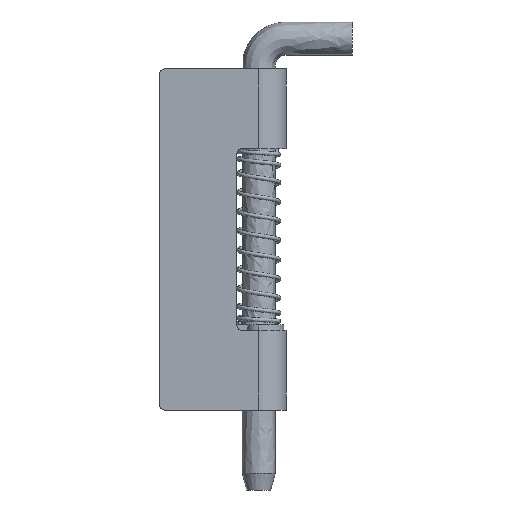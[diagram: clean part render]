
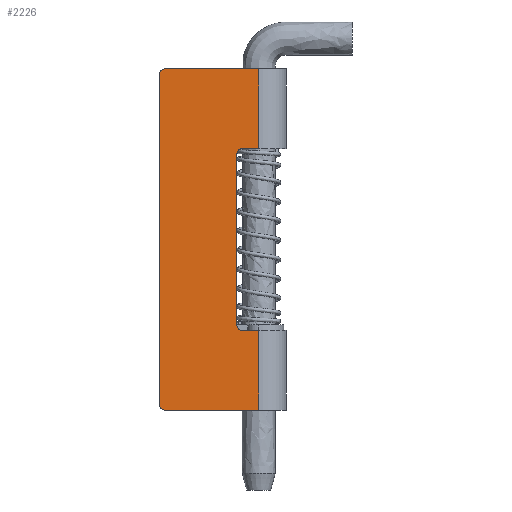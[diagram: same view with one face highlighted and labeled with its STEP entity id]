
A CAD part, front view. The second image highlights one B-rep face of the part: STEP entity #2226.
In plain terms, the highlighted planar face has unit normal (0, -1, 0).
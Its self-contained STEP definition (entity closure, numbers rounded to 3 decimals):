
#47 = LINE ( 'NONE', #246, #1322 ) ;
#143 = CARTESIAN_POINT ( 'NONE',  ( 1., -2., 31. ) ) ;
#199 = CARTESIAN_POINT ( 'NONE',  ( 0., -2., 16.5 ) ) ;
#212 = DIRECTION ( 'NONE',  ( 1., 0., 0. ) ) ;
#228 = DIRECTION ( 'NONE',  ( 0., 0., -1. ) ) ;
#246 = CARTESIAN_POINT ( 'NONE',  ( 0., -2., 31. ) ) ;
#287 = EDGE_CURVE ( 'NONE', #3141, #1307, #5175, .T. ) ;
#319 = EDGE_CURVE ( 'NONE', #5837, #3704, #4651, .T. ) ;
#354 = CARTESIAN_POINT ( 'NONE',  ( 0., -2., 30. ) ) ;
#441 = CIRCLE ( 'NONE', #1490, 1. ) ;
#456 = AXIS2_PLACEMENT_3D ( 'NONE', #1447, #1453, #1474 ) ;
#514 = EDGE_CURVE ( 'NONE', #6258, #3141, #5994, .T. ) ;
#587 = VECTOR ( 'NONE', #212, 1000. ) ;
#639 = AXIS2_PLACEMENT_3D ( 'NONE', #4137, #981, #4665 ) ;
#641 = DIRECTION ( 'NONE',  ( 0., 0., 1. ) ) ;
#758 = EDGE_CURVE ( 'NONE', #1394, #4854, #1375, .T. ) ;
#770 = CARTESIAN_POINT ( 'NONE',  ( 0., -2., -30. ) ) ;
#816 = ORIENTED_EDGE ( 'NONE', *, *, #1199, .T. ) ;
#842 = EDGE_CURVE ( 'NONE', #1075, #5837, #47, .T. ) ;
#981 = DIRECTION ( 'NONE',  ( 0., -1., 0. ) ) ;
#983 = ORIENTED_EDGE ( 'NONE', *, *, #758, .T. ) ;
#1075 = VERTEX_POINT ( 'NONE', #354 ) ;
#1095 = CARTESIAN_POINT ( 'NONE',  ( 18., -2., 31. ) ) ;
#1127 = DIRECTION ( 'NONE',  ( 0., 0., -1. ) ) ;
#1133 = DIRECTION ( 'NONE',  ( 0., 1., 0. ) ) ;
#1145 = ORIENTED_EDGE ( 'NONE', *, *, #6511, .T. ) ;
#1199 = EDGE_CURVE ( 'NONE', #6258, #4115, #2609, .T. ) ;
#1267 = ORIENTED_EDGE ( 'NONE', *, *, #1808, .F. ) ;
#1307 = VERTEX_POINT ( 'NONE', #1483 ) ;
#1322 = VECTOR ( 'NONE', #228, 1000. ) ;
#1375 = LINE ( 'NONE', #199, #587 ) ;
#1394 = VERTEX_POINT ( 'NONE', #1661 ) ;
#1439 = EDGE_CURVE ( 'NONE', #3711, #1394, #441, .T. ) ;
#1447 = CARTESIAN_POINT ( 'NONE',  ( 15., -2., -15.5 ) ) ;
#1453 = DIRECTION ( 'NONE',  ( 0., 1., 0. ) ) ;
#1471 = ORIENTED_EDGE ( 'NONE', *, *, #6464, .F. ) ;
#1474 = DIRECTION ( 'NONE',  ( 0., 0., 1. ) ) ;
#1483 = CARTESIAN_POINT ( 'NONE',  ( 18., -2., -31. ) ) ;
#1490 = AXIS2_PLACEMENT_3D ( 'NONE', #2422, #2335, #2302 ) ;
#1533 = DIRECTION ( 'NONE',  ( 0., -1., 0. ) ) ;
#1551 = CARTESIAN_POINT ( 'NONE',  ( 18., -2., 31. ) ) ;
#1636 = CARTESIAN_POINT ( 'NONE',  ( 1., -2., -30. ) ) ;
#1649 = PLANE ( 'NONE',  #5378 ) ;
#1661 = CARTESIAN_POINT ( 'NONE',  ( 15., -2., 16.5 ) ) ;
#1808 = EDGE_CURVE ( 'NONE', #3534, #4854, #3330, .T. ) ;
#1851 = CARTESIAN_POINT ( 'NONE',  ( 18., -2., -16.5 ) ) ;
#1922 = CIRCLE ( 'NONE', #639, 1. ) ;
#2047 = CARTESIAN_POINT ( 'NONE',  ( 1., -2., -31. ) ) ;
#2226 = ADVANCED_FACE ( 'NONE', ( #4161 ), #1649, .F. ) ;
#2260 = VECTOR ( 'NONE', #4593, 1000. ) ;
#2302 = DIRECTION ( 'NONE',  ( 0., 0., 1. ) ) ;
#2335 = DIRECTION ( 'NONE',  ( 0., 1., 0. ) ) ;
#2422 = CARTESIAN_POINT ( 'NONE',  ( 15., -2., 15.5 ) ) ;
#2476 = VECTOR ( 'NONE', #4076, 1000. ) ;
#2589 = CARTESIAN_POINT ( 'NONE',  ( 14., -2., 15.5 ) ) ;
#2609 = CIRCLE ( 'NONE', #456, 1. ) ;
#2728 = CARTESIAN_POINT ( 'NONE',  ( 15., -2., -16.5 ) ) ;
#2911 = AXIS2_PLACEMENT_3D ( 'NONE', #1636, #1533, #641 ) ;
#3110 = CARTESIAN_POINT ( 'NONE',  ( 14., -2., -15.5 ) ) ;
#3141 = VERTEX_POINT ( 'NONE', #1851 ) ;
#3224 = CARTESIAN_POINT ( 'NONE',  ( 0., -2., 31. ) ) ;
#3283 = LINE ( 'NONE', #3224, #2476 ) ;
#3328 = ORIENTED_EDGE ( 'NONE', *, *, #3745, .T. ) ;
#3330 = LINE ( 'NONE', #1551, #5956 ) ;
#3475 = CARTESIAN_POINT ( 'NONE',  ( 0., -2., -16.5 ) ) ;
#3534 = VERTEX_POINT ( 'NONE', #4569 ) ;
#3540 = DIRECTION ( 'NONE',  ( 1., 0., 0. ) ) ;
#3559 = EDGE_CURVE ( 'NONE', #3704, #1307, #3608, .T. ) ;
#3608 = LINE ( 'NONE', #4018, #2260 ) ;
#3704 = VERTEX_POINT ( 'NONE', #2047 ) ;
#3711 = VERTEX_POINT ( 'NONE', #2589 ) ;
#3745 = EDGE_CURVE ( 'NONE', #4594, #1075, #1922, .T. ) ;
#4018 = CARTESIAN_POINT ( 'NONE',  ( 0., -2., -31. ) ) ;
#4076 = DIRECTION ( 'NONE',  ( 1., 0., 0. ) ) ;
#4099 = ORIENTED_EDGE ( 'NONE', *, *, #1439, .T. ) ;
#4115 = VERTEX_POINT ( 'NONE', #3110 ) ;
#4137 = CARTESIAN_POINT ( 'NONE',  ( 1., -2., 30. ) ) ;
#4161 = FACE_OUTER_BOUND ( 'NONE', #4702, .T. ) ;
#4569 = CARTESIAN_POINT ( 'NONE',  ( 18., -2., 31. ) ) ;
#4593 = DIRECTION ( 'NONE',  ( 1., 0., 0. ) ) ;
#4594 = VERTEX_POINT ( 'NONE', #143 ) ;
#4631 = CARTESIAN_POINT ( 'NONE',  ( 14., -2., 31. ) ) ;
#4651 = CIRCLE ( 'NONE', #2911, 1. ) ;
#4665 = DIRECTION ( 'NONE',  ( 0., 0., 1. ) ) ;
#4702 = EDGE_LOOP ( 'NONE', ( #5798, #5871, #6022, #4740, #5972, #816, #1145, #4099, #983, #1267, #1471, #3328 ) ) ;
#4740 = ORIENTED_EDGE ( 'NONE', *, *, #287, .F. ) ;
#4794 = CARTESIAN_POINT ( 'NONE',  ( 0., -2., 31. ) ) ;
#4810 = DIRECTION ( 'NONE',  ( 0., 0., 1. ) ) ;
#4844 = CARTESIAN_POINT ( 'NONE',  ( 18., -2., 16.5 ) ) ;
#4854 = VERTEX_POINT ( 'NONE', #4844 ) ;
#5112 = DIRECTION ( 'NONE',  ( 0., 0., 1. ) ) ;
#5175 = LINE ( 'NONE', #1095, #5329 ) ;
#5180 = DIRECTION ( 'NONE',  ( 0., 0., -1. ) ) ;
#5191 = LINE ( 'NONE', #4631, #6303 ) ;
#5329 = VECTOR ( 'NONE', #1127, 1000. ) ;
#5378 = AXIS2_PLACEMENT_3D ( 'NONE', #4794, #1133, #4810 ) ;
#5798 = ORIENTED_EDGE ( 'NONE', *, *, #842, .T. ) ;
#5837 = VERTEX_POINT ( 'NONE', #770 ) ;
#5871 = ORIENTED_EDGE ( 'NONE', *, *, #319, .T. ) ;
#5956 = VECTOR ( 'NONE', #5180, 1000. ) ;
#5972 = ORIENTED_EDGE ( 'NONE', *, *, #514, .F. ) ;
#5994 = LINE ( 'NONE', #3475, #6167 ) ;
#6022 = ORIENTED_EDGE ( 'NONE', *, *, #3559, .T. ) ;
#6167 = VECTOR ( 'NONE', #3540, 1000. ) ;
#6258 = VERTEX_POINT ( 'NONE', #2728 ) ;
#6303 = VECTOR ( 'NONE', #5112, 1000. ) ;
#6464 = EDGE_CURVE ( 'NONE', #4594, #3534, #3283, .T. ) ;
#6511 = EDGE_CURVE ( 'NONE', #4115, #3711, #5191, .T. ) ;
